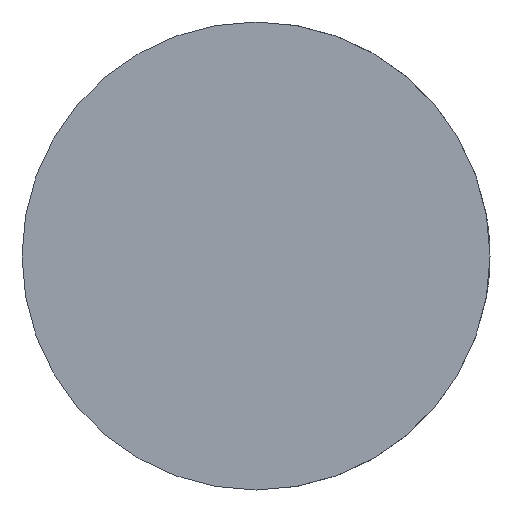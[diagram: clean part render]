
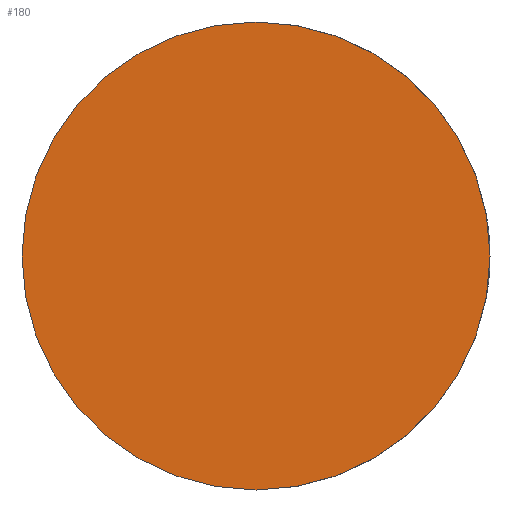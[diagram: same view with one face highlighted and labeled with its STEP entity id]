
A CAD part, front view. The second image highlights one B-rep face of the part: STEP entity #180.
In plain terms, the highlighted planar face has unit normal (0, -1, 0).
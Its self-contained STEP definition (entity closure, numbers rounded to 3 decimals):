
#36 = AXIS2_PLACEMENT_3D ( 'NONE', #1135, #1872, #389 ) ;
#86 = DIRECTION ( 'NONE',  ( 0., -1., 0. ) ) ;
#141 = CARTESIAN_POINT ( 'NONE',  ( 0., 0., -25. ) ) ;
#180 = ADVANCED_FACE ( 'NONE', ( #1103 ), #1094, .T. ) ;
#193 = AXIS2_PLACEMENT_3D ( 'NONE', #350, #962, #2000 ) ;
#350 = CARTESIAN_POINT ( 'NONE',  ( 0., 0., 0. ) ) ;
#389 = DIRECTION ( 'NONE',  ( 0., 0., -1. ) ) ;
#462 = CARTESIAN_POINT ( 'NONE',  ( 0., 0., 25. ) ) ;
#614 = AXIS2_PLACEMENT_3D ( 'NONE', #1398, #86, #2133 ) ;
#909 = VERTEX_POINT ( 'NONE', #141 ) ;
#962 = DIRECTION ( 'NONE',  ( 0., -1., 0. ) ) ;
#1094 = PLANE ( 'NONE',  #193 ) ;
#1103 = FACE_OUTER_BOUND ( 'NONE', #1485, .T. ) ;
#1135 = CARTESIAN_POINT ( 'NONE',  ( 0., 0., 0. ) ) ;
#1249 = VERTEX_POINT ( 'NONE', #462 ) ;
#1330 = ORIENTED_EDGE ( 'NONE', *, *, #1399, .T. ) ;
#1350 = CIRCLE ( 'NONE', #36, 25. ) ;
#1398 = CARTESIAN_POINT ( 'NONE',  ( 0., 0., 0. ) ) ;
#1399 = EDGE_CURVE ( 'NONE', #1249, #909, #1350, .T. ) ;
#1485 = EDGE_LOOP ( 'NONE', ( #1330, #2243 ) ) ;
#1569 = EDGE_CURVE ( 'NONE', #909, #1249, #2271, .T. ) ;
#1872 = DIRECTION ( 'NONE',  ( 0., -1., 0. ) ) ;
#2000 = DIRECTION ( 'NONE',  ( 0., 0., -1. ) ) ;
#2133 = DIRECTION ( 'NONE',  ( 0., 0., -1. ) ) ;
#2243 = ORIENTED_EDGE ( 'NONE', *, *, #1569, .T. ) ;
#2271 = CIRCLE ( 'NONE', #614, 25. ) ;
